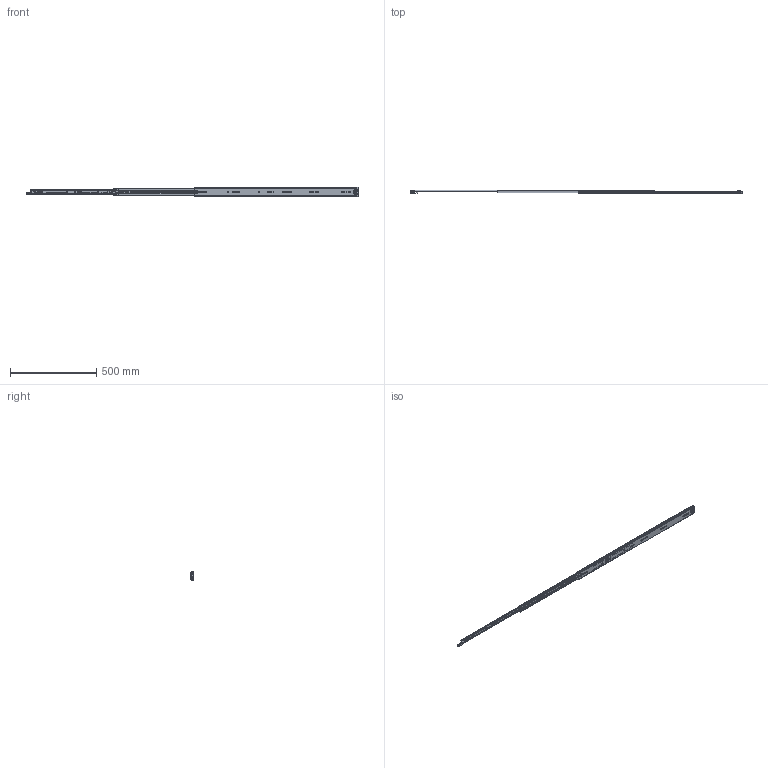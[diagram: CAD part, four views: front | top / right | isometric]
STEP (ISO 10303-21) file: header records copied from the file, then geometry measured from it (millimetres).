
FILE_DESCRIPTION((''),'2;1');
FILE_NAME('1053-3S-38ZUZHUANGTU_ASM','2023-04-12T',('jishu015'),(''),'PRO/ENGINEER BY PARAMETRIC TECHNOLOGY CORPORATION, 2010280','PRO/ENGINEER BY PARAMETRIC TECHNOLOGY CORPORATION, 2010280','');
FILE_SCHEMA(('CONFIG_CONTROL_DESIGN'));
Products named in the file (20): 1053-02-18WAIKE_____________; 1053WEIJIAO_____________; 1053-3S-24WAIKE______________ASM; 1053ZHUTIAO-175_____________; 53-5-6GANZHU_____________; 1053ZHUTIAO-175MM______________ASM; 1053-02-18ZHONGGUI_____________; ZHONGGUIPEIJIAN___________; ZHONGGUISUOKOU___________; 1053-02-18ZHONGGUI______________ASM; 1053XIAOZHUJIA-14GE1; 1053XIAOZHUJIA-14GE1_ASM; 1053-02-18NEIGUI_____________; DAOPIAN_________; PIAN_________; 1053-3SBANJI123________; JIAO-11________; 50XINSUOKOU11_______; 1053-02-18NEIGUI______________ASM; 1053-3S-38ZUZHUANGTU_ASM
Assembly tree (104 placements, depth 3):
  1053-3S-38ZUZHUANGTU_ASM
    1053-3S-24WAIKE______________ASM
      1053-02-18WAIKE_____________
      1053WEIJIAO_____________
    1053ZHUTIAO-175MM______________ASM  x2
      1053ZHUTIAO-175_____________
      53-5-6GANZHU_____________
    1053-02-18ZHONGGUI______________ASM
      1053-02-18ZHONGGUI_____________
      ZHONGGUIPEIJIAN___________
      ZHONGGUISUOKOU___________
    1053XIAOZHUJIA-14GE1_ASM
      1053XIAOZHUJIA-14GE1
      53-5-6GANZHU_____________  x68
    1053-02-18NEIGUI______________ASM
      1053-02-18NEIGUI_____________
      DAOPIAN_________
      PIAN_________
      1053-3SBANJI123________
      JIAO-11________
      50XINSUOKOU11_______
Bounding box: 1926.92 x 18.7 x 53 mm (x, y, z)
Volume: 363258.5 mm3; surface area: 421245.8 mm2
Topology: 117 solids, 117 shells, 2835 faces, 8226 edges, 5125 vertices
Faces by surface type: cylinder 1250, plane 1131, sphere 212, bspline 117, cone 86, extrusion 23, torus 16
Entity records: 90525 total; most frequent: CARTESIAN_POINT 21943, ORIENTED_EDGE 14554, DIRECTION 14114, EDGE_CURVE 7277, AXIS2_PLACEMENT_3D 4880, VERTEX_POINT 4703, VECTOR 4354, LINE 4331
